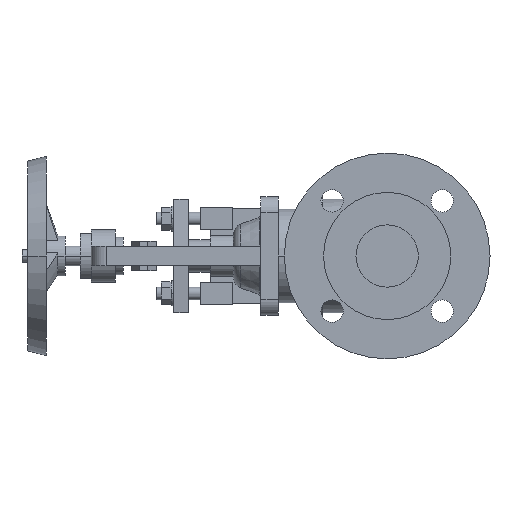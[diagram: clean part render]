
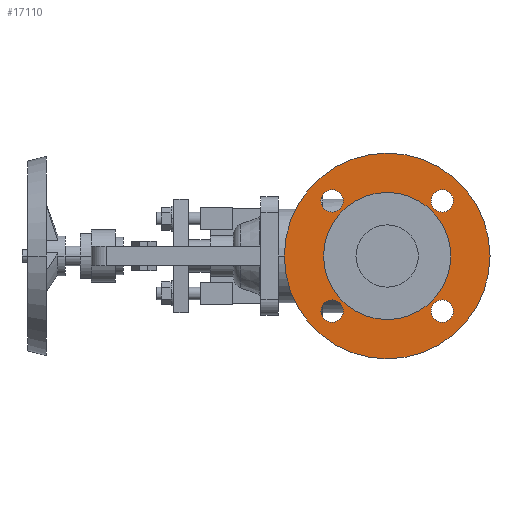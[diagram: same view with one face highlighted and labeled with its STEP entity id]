
A CAD part, left-side view. The second image highlights one B-rep face of the part: STEP entity #17110.
In plain terms, the highlighted planar face has unit normal (-1, 0, 0).
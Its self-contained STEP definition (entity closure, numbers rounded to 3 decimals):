
#8470=CARTESIAN_POINT('',(4.3,0.,-82.5));
#8480=VERTEX_POINT('',#8470);
#8510=CARTESIAN_POINT('',(4.3,0.,0.));
#8520=DIRECTION('',(1.,0.,0.));
#8530=DIRECTION('',(0.,0.,-1.));
#8540=AXIS2_PLACEMENT_3D('',#8510,#8520,#8530);
#8550=CIRCLE('',#8540,82.5);
#8560=CARTESIAN_POINT('',(4.3,0.,82.5));
#8570=VERTEX_POINT('',#8560);
#8580=EDGE_CURVE('',#8570,#8480,#8550,.T.);
#8960=CARTESIAN_POINT('',(4.3,44.194,-35.194));
#8970=VERTEX_POINT('',#8960);
#9000=CARTESIAN_POINT('',(4.3,44.194,-44.194));
#9010=DIRECTION('',(-1.,0.,0.));
#9020=DIRECTION('',(0.,0.,-1.));
#9030=AXIS2_PLACEMENT_3D('',#9000,#9010,#9020);
#9040=CIRCLE('',#9030,9.);
#9050=CARTESIAN_POINT('',(4.3,44.194,-53.194));
#9060=VERTEX_POINT('',#9050);
#9070=EDGE_CURVE('',#9060,#8970,#9040,.T.);
#9450=CARTESIAN_POINT('',(4.3,-44.194,-53.194));
#9460=VERTEX_POINT('',#9450);
#9620=CARTESIAN_POINT('',(4.3,-44.194,-35.194));
#9630=VERTEX_POINT('',#9620);
#9660=CARTESIAN_POINT('',(4.3,-44.194,-44.194));
#9670=DIRECTION('',(-1.,0.,0.));
#9680=DIRECTION('',(0.,0.,-1.));
#9690=AXIS2_PLACEMENT_3D('',#9660,#9670,#9680);
#9700=CIRCLE('',#9690,9.);
#9710=EDGE_CURVE('',#9460,#9630,#9700,.T.);
#9940=CARTESIAN_POINT('',(4.3,-44.194,35.194));
#9950=VERTEX_POINT('',#9940);
#9980=CARTESIAN_POINT('',(4.3,-44.194,44.194));
#9990=DIRECTION('',(-1.,0.,0.));
#10000=DIRECTION('',(0.,0.,-1.));
#10010=AXIS2_PLACEMENT_3D('',#9980,#9990,#10000);
#10020=CIRCLE('',#10010,9.);
#10030=CARTESIAN_POINT('',(4.3,-44.194,53.194));
#10040=VERTEX_POINT('',#10030);
#10050=EDGE_CURVE('',#10040,#9950,#10020,.T.);
#10430=CARTESIAN_POINT('',(4.3,44.194,53.194));
#10440=VERTEX_POINT('',#10430);
#10600=CARTESIAN_POINT('',(4.3,44.194,35.194));
#10610=VERTEX_POINT('',#10600);
#10640=CARTESIAN_POINT('',(4.3,44.194,44.194));
#10650=DIRECTION('',(-1.,0.,0.));
#10660=DIRECTION('',(0.,0.,-1.));
#10670=AXIS2_PLACEMENT_3D('',#10640,#10650,#10660);
#10680=CIRCLE('',#10670,9.);
#10690=EDGE_CURVE('',#10440,#10610,#10680,.T.);
#10920=CARTESIAN_POINT('',(4.3,51.,0.));
#10930=VERTEX_POINT('',#10920);
#10960=CARTESIAN_POINT('',(4.3,0.,0.));
#10970=DIRECTION('',(-1.,0.,0.));
#10980=DIRECTION('',(0.,1.,0.));
#10990=AXIS2_PLACEMENT_3D('',#10960,#10970,#10980);
#11000=CIRCLE('',#10990,51.);
#11010=CARTESIAN_POINT('',(4.3,-51.,0.));
#11020=VERTEX_POINT('',#11010);
#11030=EDGE_CURVE('',#11020,#10930,#11000,.T.);
#16760=CARTESIAN_POINT('',(4.3,66.75,0.));
#16770=DIRECTION('',(1.,0.,0.));
#16780=DIRECTION('',(0.,-1.,0.));
#16790=AXIS2_PLACEMENT_3D('',#16760,#16770,#16780);
#16800=PLANE('',#16790);
#16810=EDGE_CURVE('',#10930,#11020,#11000,.T.);
#16820=ORIENTED_EDGE('',*,*,#16810,.F.);
#16830=ORIENTED_EDGE('',*,*,#11030,.F.);
#16840=EDGE_LOOP('',(#16830,#16820));
#16850=FACE_BOUND('',#16840,.T.);
#16860=EDGE_CURVE('',#8480,#8570,#8550,.T.);
#16870=ORIENTED_EDGE('',*,*,#16860,.F.);
#16880=ORIENTED_EDGE('',*,*,#8580,.F.);
#16890=EDGE_LOOP('',(#16880,#16870));
#16900=FACE_OUTER_BOUND('',#16890,.T.);
#16910=EDGE_CURVE('',#8970,#9060,#9040,.T.);
#16920=ORIENTED_EDGE('',*,*,#16910,.F.);
#16930=ORIENTED_EDGE('',*,*,#9070,.F.);
#16940=EDGE_LOOP('',(#16930,#16920));
#16950=FACE_BOUND('',#16940,.T.);
#16960=EDGE_CURVE('',#9630,#9460,#9700,.T.);
#16970=ORIENTED_EDGE('',*,*,#16960,.F.);
#16980=ORIENTED_EDGE('',*,*,#9710,.F.);
#16990=EDGE_LOOP('',(#16980,#16970));
#17000=FACE_BOUND('',#16990,.T.);
#17010=EDGE_CURVE('',#9950,#10040,#10020,.T.);
#17020=ORIENTED_EDGE('',*,*,#17010,.F.);
#17030=ORIENTED_EDGE('',*,*,#10050,.F.);
#17040=EDGE_LOOP('',(#17030,#17020));
#17050=FACE_BOUND('',#17040,.T.);
#17060=EDGE_CURVE('',#10610,#10440,#10680,.T.);
#17070=ORIENTED_EDGE('',*,*,#17060,.F.);
#17080=ORIENTED_EDGE('',*,*,#10690,.F.);
#17090=EDGE_LOOP('',(#17080,#17070));
#17100=FACE_BOUND('',#17090,.T.);
#17110=ADVANCED_FACE('',(#16850,#16900,#16950,#17000,#17050,#17100),
#16800,.F.);
